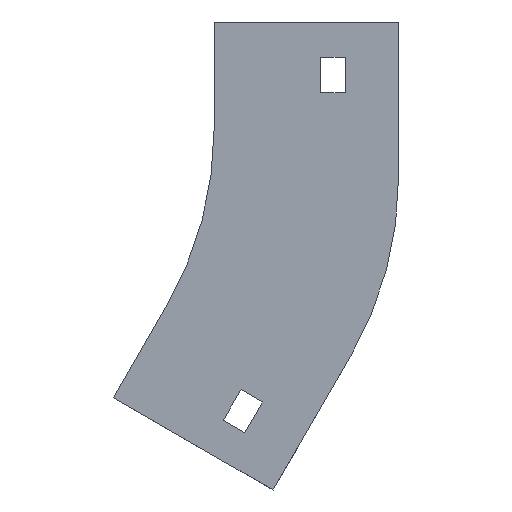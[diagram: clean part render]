
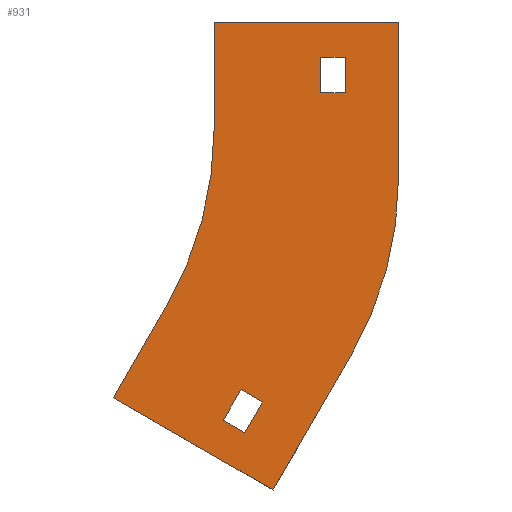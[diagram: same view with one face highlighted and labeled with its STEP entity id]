
A CAD part, left-side view. The second image highlights one B-rep face of the part: STEP entity #931.
In plain terms, the highlighted planar face has unit normal (-1, 0, 0).
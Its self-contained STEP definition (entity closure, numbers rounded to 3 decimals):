
#10 = VECTOR ( 'NONE', #59, 1000. ) ;
#15 = VERTEX_POINT ( 'NONE', #28 ) ;
#19 = ORIENTED_EDGE ( 'NONE', *, *, #1382, .F. ) ;
#28 = CARTESIAN_POINT ( 'NONE',  ( -52., 13.397, -80. ) ) ;
#39 = FACE_OUTER_BOUND ( 'NONE', #1081, .T. ) ;
#47 = CARTESIAN_POINT ( 'NONE',  ( -52., 100., -30. ) ) ;
#48 = DIRECTION ( 'NONE',  ( 0., 0.5, -0.866 ) ) ;
#52 = DIRECTION ( 'NONE',  ( 0., 0., 1. ) ) ;
#59 = DIRECTION ( 'NONE',  ( 0., -1., 0. ) ) ;
#63 = VECTOR ( 'NONE', #1062, 1000. ) ;
#73 = CARTESIAN_POINT ( 'NONE',  ( -52., -30., -20. ) ) ;
#77 = EDGE_CURVE ( 'NONE', #15, #1175, #292, .T. ) ;
#99 = VERTEX_POINT ( 'NONE', #141 ) ;
#102 = ORIENTED_EDGE ( 'NONE', *, *, #1041, .F. ) ;
#125 = CARTESIAN_POINT ( 'NONE',  ( -52., -38.603, -93.933 ) ) ;
#136 = VERTEX_POINT ( 'NONE', #1351 ) ;
#138 = LINE ( 'NONE', #787, #690 ) ;
#141 = CARTESIAN_POINT ( 'NONE',  ( -52., -37., -20. ) ) ;
#152 = DIRECTION ( 'NONE',  ( 1., 0., 0. ) ) ;
#159 = LINE ( 'NONE', #477, #917 ) ;
#162 = LINE ( 'NONE', #1031, #10 ) ;
#168 = DIRECTION ( 'NONE',  ( 0., 0., 1. ) ) ;
#169 = DIRECTION ( 'NONE',  ( 0., 0., -1. ) ) ;
#193 = DIRECTION ( 'NONE',  ( 0., 0.866, 0.5 ) ) ;
#196 = ORIENTED_EDGE ( 'NONE', *, *, #444, .F. ) ;
#239 = CARTESIAN_POINT ( 'NONE',  ( -52., 100., -30. ) ) ;
#256 = LINE ( 'NONE', #810, #268 ) ;
#263 = LINE ( 'NONE', #370, #282 ) ;
#268 = VECTOR ( 'NONE', #48, 1000. ) ;
#273 = VERTEX_POINT ( 'NONE', #1146 ) ;
#282 = VECTOR ( 'NONE', #284, 1000. ) ;
#284 = DIRECTION ( 'NONE',  ( 0., -0.5, 0.866 ) ) ;
#292 = CIRCLE ( 'NONE', #990, 100. ) ;
#296 = ORIENTED_EDGE ( 'NONE', *, *, #573, .F. ) ;
#302 = EDGE_LOOP ( 'NONE', ( #996, #779, #1305, #1293 ) ) ;
#313 = ORIENTED_EDGE ( 'NONE', *, *, #1317, .F. ) ;
#323 = EDGE_LOOP ( 'NONE', ( #501, #830, #1386, #436 ) ) ;
#338 = CARTESIAN_POINT ( 'NONE',  ( -52., -7.583, -103.66 ) ) ;
#347 = VERTEX_POINT ( 'NONE', #125 ) ;
#351 = CARTESIAN_POINT ( 'NONE',  ( -52., -37., -10. ) ) ;
#365 = DIRECTION ( 'NONE',  ( 0., -0.866, -0.5 ) ) ;
#370 = CARTESIAN_POINT ( 'NONE',  ( -52., 13.397, -80. ) ) ;
#379 = LINE ( 'NONE', #596, #1313 ) ;
#381 = VERTEX_POINT ( 'NONE', #653 ) ;
#418 = VERTEX_POINT ( 'NONE', #1068 ) ;
#423 = VECTOR ( 'NONE', #365, 1000. ) ;
#436 = ORIENTED_EDGE ( 'NONE', *, *, #662, .T. ) ;
#444 = EDGE_CURVE ( 'NONE', #650, #347, #1114, .T. ) ;
#450 = LINE ( 'NONE', #338, #1187 ) ;
#453 = CARTESIAN_POINT ( 'NONE',  ( -52., 0., -30. ) ) ;
#475 = PLANE ( 'NONE',  #1097 ) ;
#477 = CARTESIAN_POINT ( 'NONE',  ( -52., 28.397, -105.981 ) ) ;
#478 = DIRECTION ( 'NONE',  ( 0., 0., -1. ) ) ;
#487 = VECTOR ( 'NONE', #597, 1000. ) ;
#497 = EDGE_CURVE ( 'NONE', #1159, #856, #693, .T. ) ;
#501 = ORIENTED_EDGE ( 'NONE', *, *, #1332, .T. ) ;
#528 = VECTOR ( 'NONE', #169, 1000. ) ;
#535 = CARTESIAN_POINT ( 'NONE',  ( -52., -30., -10. ) ) ;
#567 = DIRECTION ( 'NONE',  ( 0., -0.5, 0.866 ) ) ;
#573 = EDGE_CURVE ( 'NONE', #854, #381, #159, .T. ) ;
#587 = DIRECTION ( 'NONE',  ( 1., 0., 0. ) ) ;
#596 = CARTESIAN_POINT ( 'NONE',  ( -52., -30., -10. ) ) ;
#597 = DIRECTION ( 'NONE',  ( 0., 0.5, -0.866 ) ) ;
#645 = VECTOR ( 'NONE', #848, 1000. ) ;
#650 = VERTEX_POINT ( 'NONE', #953 ) ;
#653 = CARTESIAN_POINT ( 'NONE',  ( -52., 28.397, -105.981 ) ) ;
#662 = EDGE_CURVE ( 'NONE', #99, #1283, #841, .T. ) ;
#672 = DIRECTION ( 'NONE',  ( 0., 0., -1. ) ) ;
#690 = VECTOR ( 'NONE', #567, 1000. ) ;
#693 = LINE ( 'NONE', #1015, #1069 ) ;
#700 = CARTESIAN_POINT ( 'NONE',  ( -52., -30., -20. ) ) ;
#701 = ORIENTED_EDGE ( 'NONE', *, *, #77, .F. ) ;
#713 = CARTESIAN_POINT ( 'NONE',  ( -52., -2.583, -112.321 ) ) ;
#718 = CARTESIAN_POINT ( 'NONE',  ( -52., 0., 0. ) ) ;
#732 = VERTEX_POINT ( 'NONE', #862 ) ;
#753 = LINE ( 'NONE', #1395, #1050 ) ;
#771 = EDGE_CURVE ( 'NONE', #856, #99, #753, .T. ) ;
#779 = ORIENTED_EDGE ( 'NONE', *, *, #1080, .F. ) ;
#787 = CARTESIAN_POINT ( 'NONE',  ( -52., -8.645, -115.821 ) ) ;
#796 = EDGE_CURVE ( 'NONE', #273, #732, #450, .T. ) ;
#810 = CARTESIAN_POINT ( 'NONE',  ( -52., -16.636, -131.981 ) ) ;
#818 = LINE ( 'NONE', #963, #528 ) ;
#820 = AXIS2_PLACEMENT_3D ( 'NONE', #1236, #587, #52 ) ;
#825 = EDGE_CURVE ( 'NONE', #136, #273, #138, .T. ) ;
#830 = ORIENTED_EDGE ( 'NONE', *, *, #497, .T. ) ;
#841 = LINE ( 'NONE', #73, #645 ) ;
#848 = DIRECTION ( 'NONE',  ( 0., 1., 0. ) ) ;
#854 = VERTEX_POINT ( 'NONE', #1021 ) ;
#856 = VERTEX_POINT ( 'NONE', #351 ) ;
#862 = CARTESIAN_POINT ( 'NONE',  ( -52., -7.583, -103.66 ) ) ;
#893 = DIRECTION ( 'NONE',  ( 0., -1., 0. ) ) ;
#908 = CARTESIAN_POINT ( 'NONE',  ( -52., -2.583, -112.321 ) ) ;
#917 = VECTOR ( 'NONE', #193, 1000. ) ;
#926 = LINE ( 'NONE', #713, #487 ) ;
#931 = ADVANCED_FACE ( 'NONE', ( #39, #1341, #1243 ), #475, .F. ) ;
#939 = EDGE_CURVE ( 'NONE', #1279, #136, #1325, .T. ) ;
#953 = CARTESIAN_POINT ( 'NONE',  ( -52., -52., -43.933 ) ) ;
#963 = CARTESIAN_POINT ( 'NONE',  ( -52., -52., -43.933 ) ) ;
#990 = AXIS2_PLACEMENT_3D ( 'NONE', #47, #1245, #478 ) ;
#996 = ORIENTED_EDGE ( 'NONE', *, *, #939, .F. ) ;
#1015 = CARTESIAN_POINT ( 'NONE',  ( -52., -30., -10. ) ) ;
#1021 = CARTESIAN_POINT ( 'NONE',  ( -52., -16.636, -131.981 ) ) ;
#1031 = CARTESIAN_POINT ( 'NONE',  ( -52., -52., 0. ) ) ;
#1041 = EDGE_CURVE ( 'NONE', #418, #650, #818, .T. ) ;
#1044 = ORIENTED_EDGE ( 'NONE', *, *, #1077, .F. ) ;
#1050 = VECTOR ( 'NONE', #1096, 1000. ) ;
#1062 = DIRECTION ( 'NONE',  ( 0., 0., 1. ) ) ;
#1068 = CARTESIAN_POINT ( 'NONE',  ( -52., -52., 0. ) ) ;
#1069 = VECTOR ( 'NONE', #893, 1000. ) ;
#1073 = VERTEX_POINT ( 'NONE', #1247 ) ;
#1077 = EDGE_CURVE ( 'NONE', #1073, #418, #162, .T. ) ;
#1080 = EDGE_CURVE ( 'NONE', #732, #1279, #926, .T. ) ;
#1081 = EDGE_LOOP ( 'NONE', ( #1044, #19, #701, #1101, #296, #313, #196, #102 ) ) ;
#1096 = DIRECTION ( 'NONE',  ( 0., 0., -1. ) ) ;
#1097 = AXIS2_PLACEMENT_3D ( 'NONE', #239, #152, #672 ) ;
#1101 = ORIENTED_EDGE ( 'NONE', *, *, #1234, .F. ) ;
#1114 = CIRCLE ( 'NONE', #820, 100. ) ;
#1146 = CARTESIAN_POINT ( 'NONE',  ( -52., -13.645, -107.16 ) ) ;
#1159 = VERTEX_POINT ( 'NONE', #535 ) ;
#1170 = LINE ( 'NONE', #718, #63 ) ;
#1175 = VERTEX_POINT ( 'NONE', #453 ) ;
#1187 = VECTOR ( 'NONE', #1196, 1000. ) ;
#1196 = DIRECTION ( 'NONE',  ( 0., 0.866, 0.5 ) ) ;
#1231 = CARTESIAN_POINT ( 'NONE',  ( -52., -2.583, -112.321 ) ) ;
#1234 = EDGE_CURVE ( 'NONE', #381, #15, #263, .T. ) ;
#1236 = CARTESIAN_POINT ( 'NONE',  ( -52., 48., -43.933 ) ) ;
#1243 = FACE_BOUND ( 'NONE', #302, .T. ) ;
#1245 = DIRECTION ( 'NONE',  ( -1., 0., 0. ) ) ;
#1247 = CARTESIAN_POINT ( 'NONE',  ( -52., 0., 0. ) ) ;
#1279 = VERTEX_POINT ( 'NONE', #1231 ) ;
#1283 = VERTEX_POINT ( 'NONE', #700 ) ;
#1293 = ORIENTED_EDGE ( 'NONE', *, *, #825, .F. ) ;
#1305 = ORIENTED_EDGE ( 'NONE', *, *, #796, .F. ) ;
#1313 = VECTOR ( 'NONE', #168, 1000. ) ;
#1317 = EDGE_CURVE ( 'NONE', #347, #854, #256, .T. ) ;
#1325 = LINE ( 'NONE', #908, #423 ) ;
#1332 = EDGE_CURVE ( 'NONE', #1283, #1159, #379, .T. ) ;
#1341 = FACE_BOUND ( 'NONE', #323, .T. ) ;
#1351 = CARTESIAN_POINT ( 'NONE',  ( -52., -8.645, -115.821 ) ) ;
#1382 = EDGE_CURVE ( 'NONE', #1175, #1073, #1170, .T. ) ;
#1386 = ORIENTED_EDGE ( 'NONE', *, *, #771, .T. ) ;
#1395 = CARTESIAN_POINT ( 'NONE',  ( -52., -37., -10. ) ) ;
